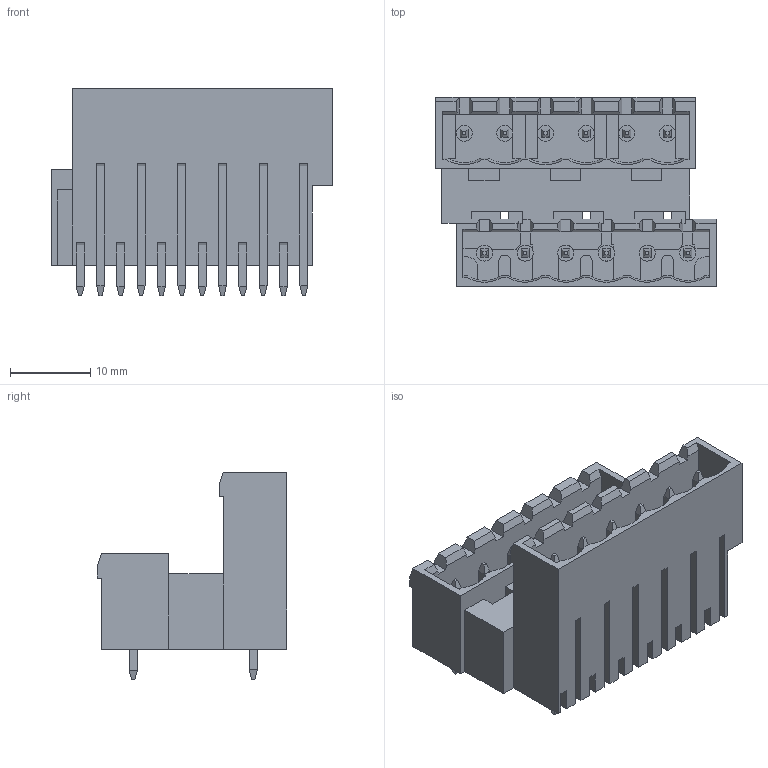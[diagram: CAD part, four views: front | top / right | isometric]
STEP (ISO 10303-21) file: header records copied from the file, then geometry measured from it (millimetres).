
FILE_DESCRIPTION((''),'2;1');
FILE_NAME('395383012','2015-02-24T',('me'),(''),'PRO/ENGINEER BY PARAMETRIC TECHNOLOGY CORPORATION, 2011490','PRO/ENGINEER BY PARAMETRIC TECHNOLOGY CORPORATION, 2011490','');
FILE_SCHEMA(('CONFIG_CONTROL_DESIGN'));
Length unit declared in the file: inch
Products named in the file (1): 395383012
Bounding box: 35.03 x 23.62 x 25.91 mm (x, y, z)
Volume: 6878.3 mm3; surface area: 7865.8 mm2
Topology: 1 solids, 1 shells, 592 faces, 1583 edges, 1030 vertices
Faces by surface type: plane 539, cylinder 41, cone 12
Entity records: 18030 total; most frequent: CARTESIAN_POINT 3256, ORIENTED_EDGE 3094, DIRECTION 2873, EDGE_CURVE 1547, VECTOR 1407, LINE 1407, VERTEX_POINT 982, AXIS2_PLACEMENT_3D 733
